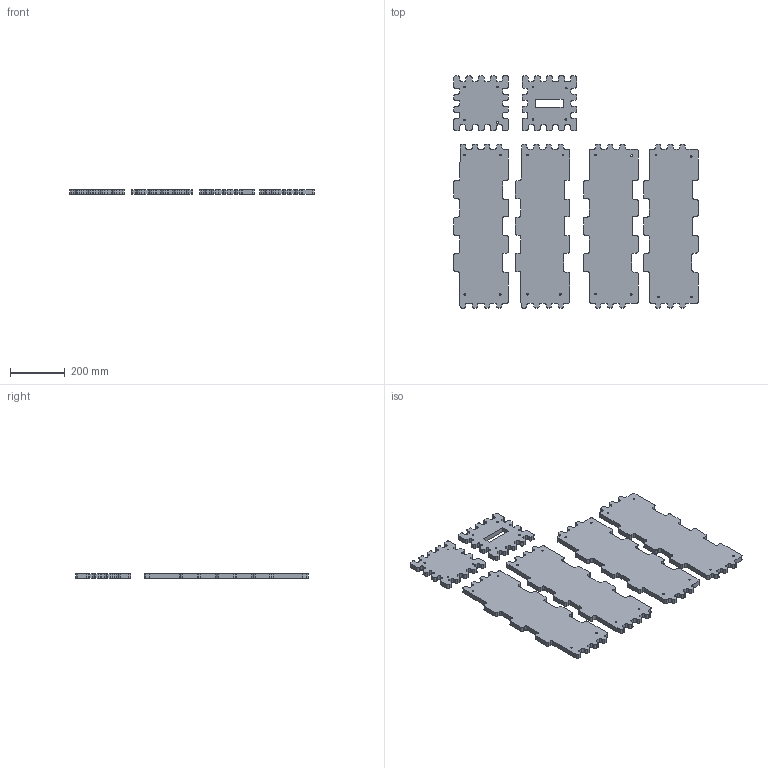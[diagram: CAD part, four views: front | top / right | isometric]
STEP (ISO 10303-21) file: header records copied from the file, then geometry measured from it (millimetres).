
FILE_DESCRIPTION(/* description */ ('','CAx-IF Rec.Pracs.---Representation and Presentation of Product Manufacturing Information (PMI)---4.0---2014-10-13'),/* implementation_level */ '2;1');
FILE_NAME(/* name */ 'Final Ballot Box.step',/* time_stamp */ '2025-03-30T16:06:52+03:00',/* author */ (''),/* organization */ (''),/* preprocessor_version */ 'ST-DEVELOPER v20',/* originating_system */ 'Autodesk Translation Framework v13.20.0.188',/* authorisation */ '');
FILE_SCHEMA (('AP242_MANAGED_MODEL_BASED_3D_ENGINEERING_MIM_LF { 1 0 10303 442 1 1 4 }'));
Length unit declared in the file: millimetre
Products named in the file (1): Final Ballot Box
Bounding box: 895 x 850 x 18 mm (x, y, z)
Volume: 8551351.1 mm3; surface area: 1140738.3 mm2
Topology: 6 solids, 6 shells, 716 faces, 2112 edges, 1408 vertices
Faces by surface type: cylinder 360, plane 356
Full cylindrical faces by diameter (mm): 6 x24
Entity records: 24204 total; most frequent: DIRECTION 4266, CARTESIAN_POINT 4237, ORIENTED_EDGE 4224, EDGE_CURVE 2112, AXIS2_PLACEMENT_3D 1437, VERTEX_POINT 1408, LINE 1392, VECTOR 1392
